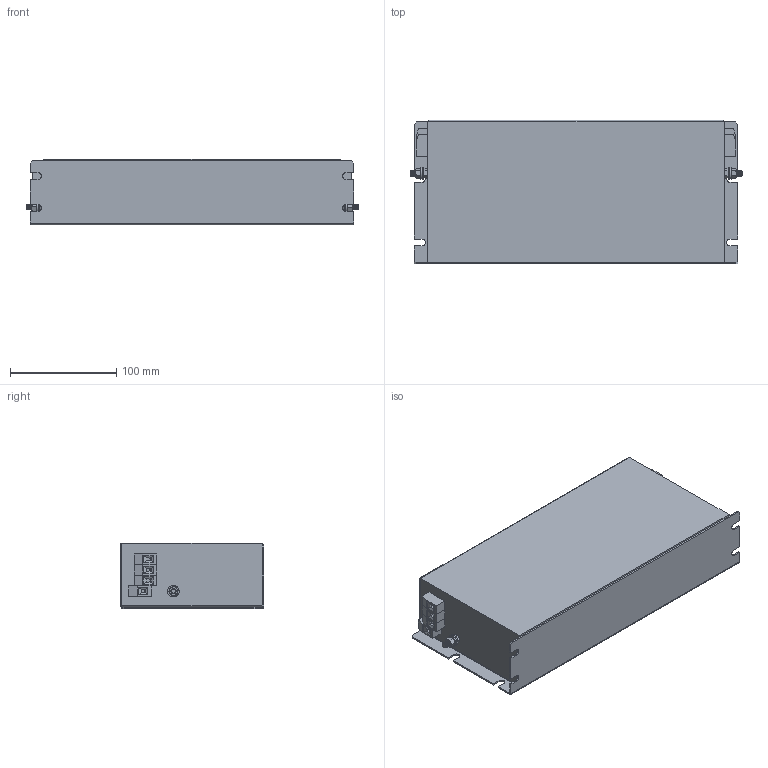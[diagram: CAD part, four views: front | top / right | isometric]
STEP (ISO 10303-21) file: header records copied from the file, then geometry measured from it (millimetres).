
FILE_DESCRIPTION (( 'STEP AP203' ), '1' );
FILE_NAME ('NF-K-4-16.STEP', '2013-12-18T11:39:11', ( 'Owner' ), ( 'EPA' ), 'SwSTEP 2.0', 'SolidWorks 2007', '' );
FILE_SCHEMA (( 'CONFIG_CONTROL_DESIGN' ));
Length unit declared in the file: millimetre
Products named in the file (7): Flat Washer Narrow_AM_B18.22M - Plain washer, 5 mm, narrow; NF-K-4-16; Q4 Case; M5x13 Earth post; Hex Screw_AM_B18.6.7M - M5 x 0.8 x 13 Plain HHMS --13S; Hex Nut Style 1_AM_B18.2.4.1M - Hex nut, Style 1,  M5 x 0.8 --D-N; VDFK-4
Assembly tree (15 placements, depth 3):
  NF-K-4-16
    VDFK-4  x8
    Q4 Case
    M5x13 Earth post  x2
      Hex Screw_AM_B18.6.7M - M5 x 0.8 x 13 Plain HHMS --13S
      Flat Washer Narrow_AM_B18.22M - Plain washer, 5 mm, narrow
      Hex Nut Style 1_AM_B18.2.4.1M - Hex nut, Style 1,  M5 x 0.8 --D-N
Bounding box: 312.6 x 135 x 61.5 mm (x, y, z)
Volume: 2277946.3 mm3; surface area: 181979 mm2
Topology: 17 solids, 17 shells, 678 faces, 1676 edges, 1064 vertices
Faces by surface type: plane 349, cone 176, cylinder 151, sphere 2
Entity records: 8944 total; most frequent: CARTESIAN_POINT 1510, DIRECTION 1447, ORIENTED_EDGE 1314, EDGE_CURVE 657, AXIS2_PLACEMENT_3D 551, VERTEX_POINT 414, VECTOR 345, LINE 345
